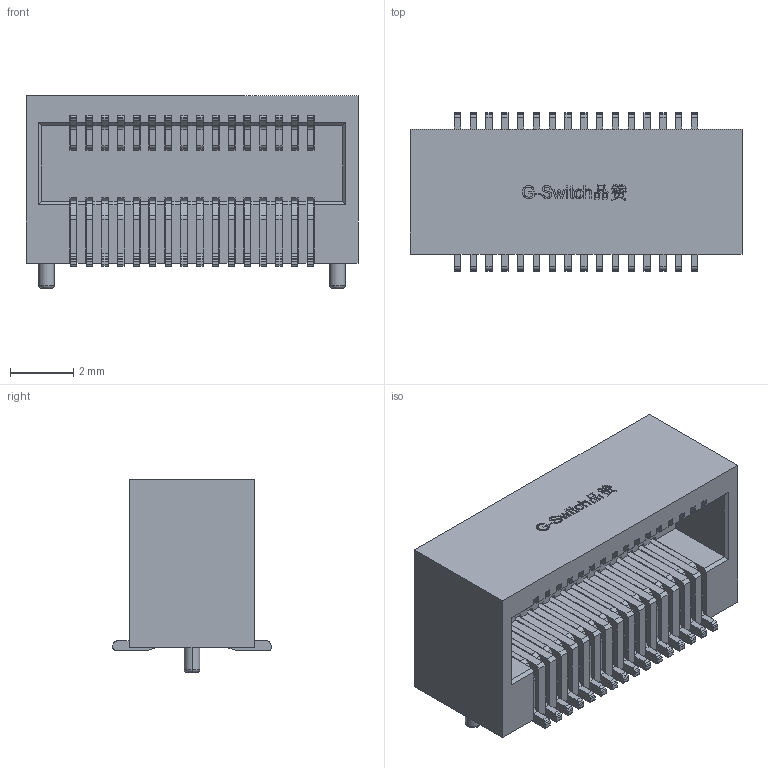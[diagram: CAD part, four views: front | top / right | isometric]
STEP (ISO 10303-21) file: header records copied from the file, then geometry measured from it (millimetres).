
FILE_DESCRIPTION (( 'STEP AP203' ), '1' );
FILE_NAME ('20501WR-216M-5AR02.stp', '2024-03-15T09:19:06', ( '' ), ( '' ), 'SwSTEP 2.0', 'SolidWorks 2023', '' );
FILE_SCHEMA (( 'CONFIG_CONTROL_DESIGN' ));
Length unit declared in the file: millimetre
Products named in the file (1): 20501WR-216M-5AR02
Bounding box: 10.5 x 5 x 6.1 mm (x, y, z)
Volume: 158.5 mm3; surface area: 870.3 mm2
Topology: 1 solids, 1 shells, 2094 faces, 6506 edges, 4260 vertices
Faces by surface type: plane 1420, cylinder 596, bspline 74, torus 4
Entity records: 76115 total; most frequent: CARTESIAN_POINT 17319, ORIENTED_EDGE 13012, DIRECTION 11568, EDGE_CURVE 6506, LINE 5126, VECTOR 5126, VERTEX_POINT 4260, AXIS2_PLACEMENT_3D 3221
